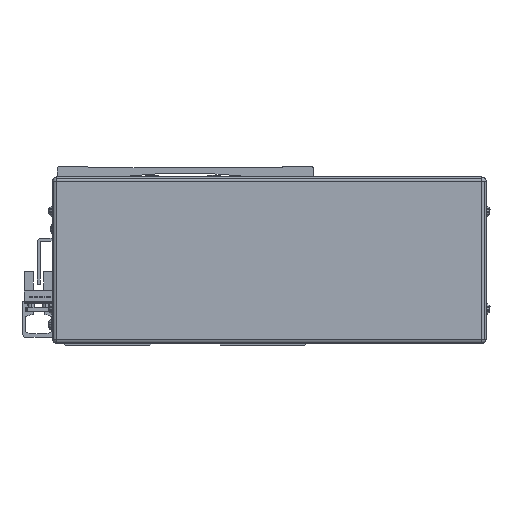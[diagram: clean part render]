
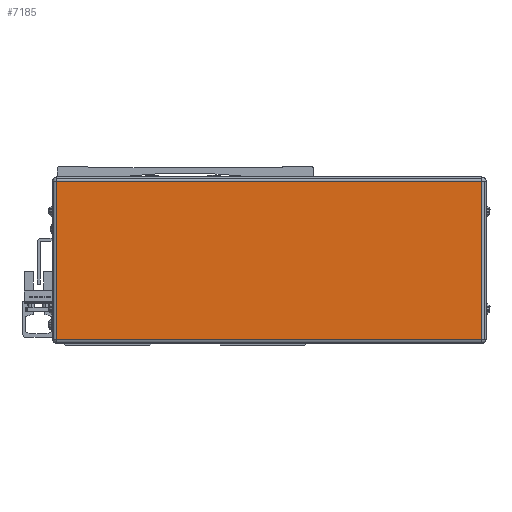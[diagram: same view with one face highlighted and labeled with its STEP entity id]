
A CAD part, front view. The second image highlights one B-rep face of the part: STEP entity #7185.
In plain terms, the highlighted planar face has unit normal (0, -1, 0).
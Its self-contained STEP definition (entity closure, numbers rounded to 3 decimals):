
#7185=ADVANCED_FACE('',(#14648),#14649,.T.);
#14648=FACE_OUTER_BOUND('',#23768,.T.);
#14649=PLANE('',#23769);
#23768=EDGE_LOOP('',(#44708,#44709,#44710,#44711));
#23769=AXIS2_PLACEMENT_3D('',#44712,#44713,#44714);
#44708=ORIENTED_EDGE('',*,*,#47907,.F.);
#44709=ORIENTED_EDGE('',*,*,#49471,.F.);
#44710=ORIENTED_EDGE('',*,*,#53838,.F.);
#44711=ORIENTED_EDGE('',*,*,#48626,.F.);
#44712=CARTESIAN_POINT('',(-259.5,-163.778,-8.));
#44713=DIRECTION('',(0.,-1.0,0.));
#44714=DIRECTION('',(1.0,0.,0.));
#47907=EDGE_CURVE('',#57316,#57318,#57319,.T.);
#48626=EDGE_CURVE('',#57318,#58595,#58596,.T.);
#49471=EDGE_CURVE('',#60025,#57316,#60027,.T.);
#53838=EDGE_CURVE('',#58595,#60025,#66479,.T.);
#57316=VERTEX_POINT('',#70880);
#57318=VERTEX_POINT('',#70882);
#57319=LINE('',#70883,#70884);
#58595=VERTEX_POINT('',#72809);
#58596=LINE('',#72810,#72811);
#60025=VERTEX_POINT('',#74901);
#60027=LINE('',#74903,#74904);
#66479=LINE('',#84248,#84249);
#70880=CARTESIAN_POINT('',(-157.3,-163.778,30.));
#70882=CARTESIAN_POINT('',(-157.3,-163.778,-46.));
#70883=CARTESIAN_POINT('',(-157.3,-163.778,-8.));
#70884=VECTOR('',#88566,10.0);
#72809=CARTESIAN_POINT('',(-361.7,-163.778,-46.));
#72810=CARTESIAN_POINT('',(-259.5,-163.778,-46.));
#72811=VECTOR('',#89462,10.0);
#74901=CARTESIAN_POINT('',(-361.7,-163.778,30.));
#74903=CARTESIAN_POINT('',(-259.5,-163.778,30.));
#74904=VECTOR('',#90567,10.0);
#84248=CARTESIAN_POINT('',(-361.7,-163.778,-8.));
#84249=VECTOR('',#95733,10.0);
#88566=DIRECTION('',(0.0,0.,-1.0));
#89462=DIRECTION('',(-1.0,0.,0.));
#90567=DIRECTION('',(1.0,0.,0.));
#95733=DIRECTION('',(0.0,0.,1.0));
